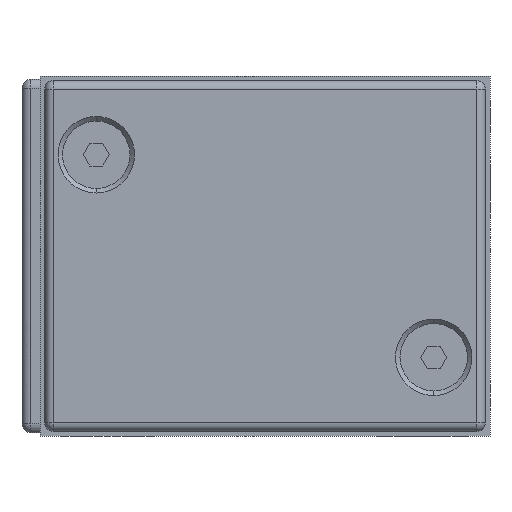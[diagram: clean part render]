
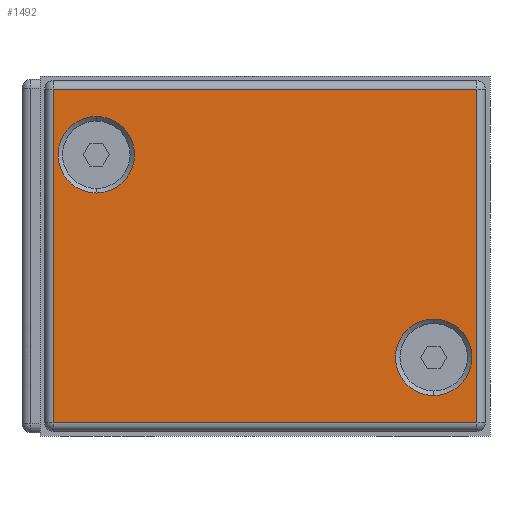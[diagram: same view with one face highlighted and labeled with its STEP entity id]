
A CAD part, front view. The second image highlights one B-rep face of the part: STEP entity #1492.
In plain terms, the highlighted planar face has unit normal (0, -1, 0).
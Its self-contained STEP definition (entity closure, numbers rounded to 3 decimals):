
#137 = EDGE_LOOP ( 'NONE', ( #3176, #3210 ) ) ;
#143 = EDGE_LOOP ( 'NONE', ( #3211, #3149, #3179, #3213 ) ) ;
#176 = EDGE_LOOP ( 'NONE', ( #3147, #3177 ) ) ;
#551 = CARTESIAN_POINT ( 'NONE',  ( 6.25, -2., 31.25 ) ) ;
#556 = CARTESIAN_POINT ( 'NONE',  ( 43.75, -2., 8.75 ) ) ;
#560 = DIRECTION ( 'NONE',  ( 0., 1., 0. ) ) ;
#561 = DIRECTION ( 'NONE',  ( 0., 0., -1. ) ) ;
#562 = DIRECTION ( 'NONE',  ( 0., 1., 0. ) ) ;
#563 = DIRECTION ( 'NONE',  ( 0., 0., -1. ) ) ;
#636 = CARTESIAN_POINT ( 'NONE',  ( 1.5, -2., 1.5 ) ) ;
#726 = CARTESIAN_POINT ( 'NONE',  ( 1.5, -2., 38.5 ) ) ;
#728 = CARTESIAN_POINT ( 'NONE',  ( 48.5, -2., 38.5 ) ) ;
#729 = CARTESIAN_POINT ( 'NONE',  ( 48.5, -2., 1.5 ) ) ;
#738 = CARTESIAN_POINT ( 'NONE',  ( 43.75, -2., 4.5 ) ) ;
#741 = CARTESIAN_POINT ( 'NONE',  ( 43.75, -2., 13. ) ) ;
#742 = CARTESIAN_POINT ( 'NONE',  ( 6.25, -2., 27. ) ) ;
#752 = CARTESIAN_POINT ( 'NONE',  ( 6.25, -2., 35.5 ) ) ;
#779 = PLANE ( 'NONE',  #2724 ) ;
#780 = CARTESIAN_POINT ( 'NONE',  ( 1.5, -2., 38.5 ) ) ;
#781 = DIRECTION ( 'NONE',  ( 0., -1., 0. ) ) ;
#782 = DIRECTION ( 'NONE',  ( 0., 0., -1. ) ) ;
#1046 = CARTESIAN_POINT ( 'NONE',  ( 48.5, -2., 1.5 ) ) ;
#1047 = DIRECTION ( 'NONE',  ( 1., 0., 0. ) ) ;
#1492 = ADVANCED_FACE ( 'NONE', ( #1750, #1730, #1514 ), #779, .T. ) ;
#1514 = FACE_OUTER_BOUND ( 'NONE', #143, .T. ) ;
#1544 = CIRCLE ( 'NONE', #2780, 4.25 ) ;
#1547 = CIRCLE ( 'NONE', #2783, 4.25 ) ;
#1730 = FACE_BOUND ( 'NONE', #176, .T. ) ;
#1750 = FACE_BOUND ( 'NONE', #137, .T. ) ;
#1867 = VECTOR ( 'NONE', #2358, 1000. ) ;
#1868 = LINE ( 'NONE', #2357, #1867 ) ;
#1869 = CIRCLE ( 'NONE', #2657, 4.25 ) ;
#1871 = LINE ( 'NONE', #2349, #1875 ) ;
#1873 = CIRCLE ( 'NONE', #2654, 4.25 ) ;
#1875 = VECTOR ( 'NONE', #2356, 1000. ) ;
#1881 = VECTOR ( 'NONE', #2346, 1000. ) ;
#1883 = LINE ( 'NONE', #2345, #1881 ) ;
#1926 = VECTOR ( 'NONE', #1047, 1000. ) ;
#1927 = LINE ( 'NONE', #1046, #1926 ) ;
#2062 = EDGE_CURVE ( 'NONE', #3553, #3646, #1927, .T. ) ;
#2086 = EDGE_CURVE ( 'NONE', #3646, #3645, #1883, .T. ) ;
#2090 = EDGE_CURVE ( 'NONE', #3658, #3655, #1873, .T. ) ;
#2092 = EDGE_CURVE ( 'NONE', #3669, #3659, #1869, .T. ) ;
#2095 = EDGE_CURVE ( 'NONE', #3645, #3643, #1871, .T. ) ;
#2097 = EDGE_CURVE ( 'NONE', #3643, #3553, #1868, .T. ) ;
#2343 = CARTESIAN_POINT ( 'NONE',  ( 43.75, -2., 8.75 ) ) ;
#2345 = CARTESIAN_POINT ( 'NONE',  ( 48.5, -2., 38.5 ) ) ;
#2346 = DIRECTION ( 'NONE',  ( 0., 0., 1. ) ) ;
#2349 = CARTESIAN_POINT ( 'NONE',  ( 1.5, -2., 38.5 ) ) ;
#2350 = DIRECTION ( 'NONE',  ( 0., 1., 0. ) ) ;
#2351 = DIRECTION ( 'NONE',  ( 0., 0., -1. ) ) ;
#2352 = CARTESIAN_POINT ( 'NONE',  ( 6.25, -2., 31.25 ) ) ;
#2353 = DIRECTION ( 'NONE',  ( 0., 1., 0. ) ) ;
#2354 = DIRECTION ( 'NONE',  ( 0., 0., -1. ) ) ;
#2356 = DIRECTION ( 'NONE',  ( -1., 0., 0. ) ) ;
#2357 = CARTESIAN_POINT ( 'NONE',  ( 1.5, -2., 1.5 ) ) ;
#2358 = DIRECTION ( 'NONE',  ( 0., 0., -1. ) ) ;
#2654 = AXIS2_PLACEMENT_3D ( 'NONE', #2343, #2350, #2351 ) ;
#2657 = AXIS2_PLACEMENT_3D ( 'NONE', #2352, #2353, #2354 ) ;
#2724 = AXIS2_PLACEMENT_3D ( 'NONE', #780, #781, #782 ) ;
#2780 = AXIS2_PLACEMENT_3D ( 'NONE', #556, #562, #563 ) ;
#2783 = AXIS2_PLACEMENT_3D ( 'NONE', #551, #560, #561 ) ;
#2895 = EDGE_CURVE ( 'NONE', #3659, #3669, #1547, .T. ) ;
#2896 = EDGE_CURVE ( 'NONE', #3655, #3658, #1544, .T. ) ;
#3147 = ORIENTED_EDGE ( 'NONE', *, *, #2895, .T. ) ;
#3149 = ORIENTED_EDGE ( 'NONE', *, *, #2095, .T. ) ;
#3176 = ORIENTED_EDGE ( 'NONE', *, *, #2896, .T. ) ;
#3177 = ORIENTED_EDGE ( 'NONE', *, *, #2092, .T. ) ;
#3179 = ORIENTED_EDGE ( 'NONE', *, *, #2097, .T. ) ;
#3210 = ORIENTED_EDGE ( 'NONE', *, *, #2090, .T. ) ;
#3211 = ORIENTED_EDGE ( 'NONE', *, *, #2086, .T. ) ;
#3213 = ORIENTED_EDGE ( 'NONE', *, *, #2062, .T. ) ;
#3553 = VERTEX_POINT ( 'NONE', #636 ) ;
#3643 = VERTEX_POINT ( 'NONE', #726 ) ;
#3645 = VERTEX_POINT ( 'NONE', #728 ) ;
#3646 = VERTEX_POINT ( 'NONE', #729 ) ;
#3655 = VERTEX_POINT ( 'NONE', #738 ) ;
#3658 = VERTEX_POINT ( 'NONE', #741 ) ;
#3659 = VERTEX_POINT ( 'NONE', #742 ) ;
#3669 = VERTEX_POINT ( 'NONE', #752 ) ;
